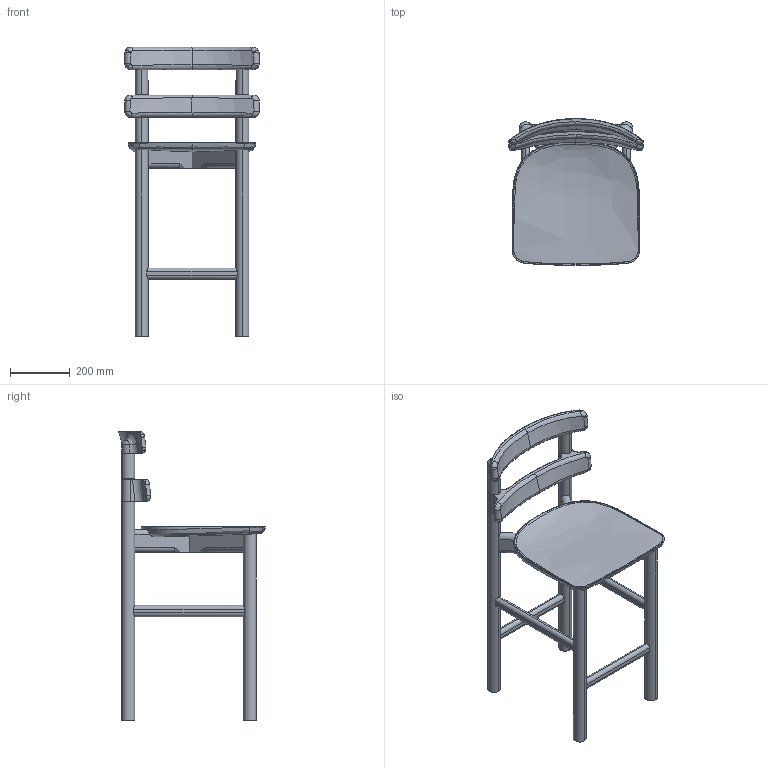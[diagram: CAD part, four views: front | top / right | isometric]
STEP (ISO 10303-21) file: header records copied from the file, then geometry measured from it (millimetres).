
FILE_DESCRIPTION(/* description */ (''),/* implementation_level */ '2;1');
FILE_NAME(/* name */ 'SISTA_tabouret_650',/* time_stamp */ '2026-06-03T11:18:18+02:00',/* author */ (''),/* organization */ (''),/* preprocessor_version */ 'ST-DEVELOPER v19.2',/* originating_system */ 'Rhino 8.31',/* authorisation */ '');
FILE_SCHEMA (('CONFIG_CONTROL_DESIGN'));
Length unit declared in the file: millimetre
Products named in the file (1): Document
Bounding box: 450 x 491.29 x 970 mm (x, y, z)
Volume: 11774569.3 mm3; surface area: 1281378.5 mm2
Topology: 15 solids, 15 shells, 278 faces, 627 edges, 379 vertices
Faces by surface type: bspline 151, cylinder 77, plane 50
Entity records: 79297 total; most frequent: CARTESIAN_POINT 74186, ORIENTED_EDGE 1254, EDGE_CURVE 627, DIRECTION 513, B_SPLINE_CURVE_WITH_KNOTS 436, VERTEX_POINT 379, AXIS2_PLACEMENT_3D 320, ADVANCED_FACE 278
